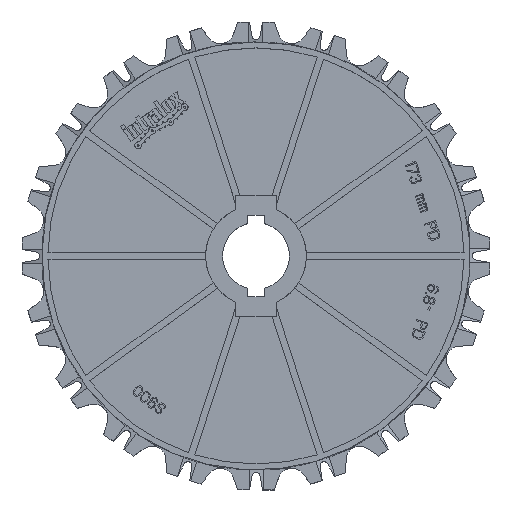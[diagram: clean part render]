
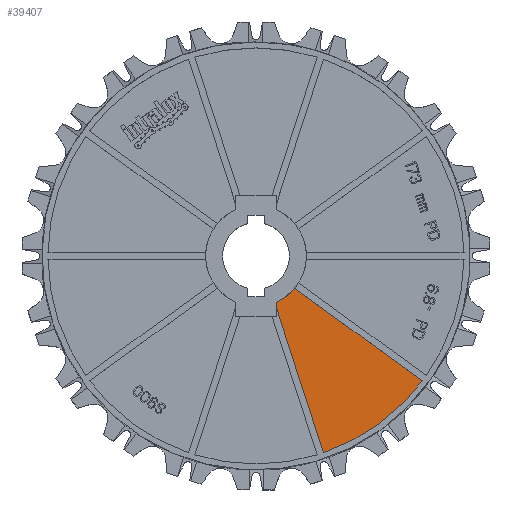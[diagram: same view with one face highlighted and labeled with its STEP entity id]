
A CAD part, top view. The second image highlights one B-rep face of the part: STEP entity #39407.
In plain terms, the highlighted planar face has unit normal (0, 0, 1).
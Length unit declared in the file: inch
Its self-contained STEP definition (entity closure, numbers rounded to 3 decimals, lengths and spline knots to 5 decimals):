
#13185=DIRECTION('',(0.,1.,0.));
#13186=VECTOR('',#13185,0.06975);
#13187=CARTESIAN_POINT('',(0.3,-0.7615,0.09));
#13188=LINE('',#13187,#13186);
#13189=CARTESIAN_POINT('',(0.,0.,0.09));
#13190=DIRECTION('',(0.,0.,1.));
#13191=DIRECTION('',(0.398,-0.917,0.));
#13192=AXIS2_PLACEMENT_3D('',#13189,#13190,#13191);
#13194=DIRECTION('',(-0.809,0.588,0.));
#13195=VECTOR('',#13194,2.36026);
#13196=CARTESIAN_POINT('',(2.48876,-1.86999,0.09));
#13197=LINE('',#13196,#13195);
#13198=CARTESIAN_POINT('',(0.,0.,0.09));
#13199=DIRECTION('',(0.,0.,1.));
#13200=DIRECTION('',(0.324,-0.946,0.));
#13201=AXIS2_PLACEMENT_3D('',#13198,#13199,#13200);
#13203=DIRECTION('',(0.309,-0.951,0.));
#13204=VECTOR('',#13203,2.29566);
#13205=CARTESIAN_POINT('',(0.3,-0.7615,0.09));
#13206=LINE('',#13205,#13204);
#20180=CARTESIAN_POINT('',(0.3,-0.69175,0.09));
#20181=VERTEX_POINT('',#20180);
#20672=CARTESIAN_POINT('',(1.0094,-2.94481,0.09));
#20673=CARTESIAN_POINT('',(2.48876,-1.86999,0.09));
#20674=VERTEX_POINT('',#20672);
#20675=VERTEX_POINT('',#20673);
#20748=CARTESIAN_POINT('',(0.3,-0.7615,0.09));
#20749=VERTEX_POINT('',#20748);
#20750=CARTESIAN_POINT('',(0.57927,-0.48267,0.09));
#20751=VERTEX_POINT('',#20750);
#39395=CARTESIAN_POINT('',(0.,0.,0.09));
#39396=DIRECTION('',(0.,0.,1.));
#39397=DIRECTION('',(-0.809,-0.588,0.));
#39398=AXIS2_PLACEMENT_3D('',#39395,#39396,#39397);
#39399=PLANE('',#39398);
#39400=ORIENTED_EDGE('',*,*,#24213,.T.);
#39401=ORIENTED_EDGE('',*,*,#24133,.T.);
#39402=ORIENTED_EDGE('',*,*,#24169,.F.);
#39403=ORIENTED_EDGE('',*,*,#24182,.F.);
#39404=ORIENTED_EDGE('',*,*,#24195,.F.);
#39405=EDGE_LOOP('',(#39400,#39401,#39402,#39403,#39404));
#39406=FACE_OUTER_BOUND('',#39405,.F.);
#39407=ADVANCED_FACE('',(#39406),#39399,.T.);
#13193=CIRCLE('',#13192,0.754);
#13202=CIRCLE('',#13201,3.113);
#24133=EDGE_CURVE('',#20181,#20751,#13193,.T.);
#24169=EDGE_CURVE('',#20675,#20751,#13197,.T.);
#24182=EDGE_CURVE('',#20674,#20675,#13202,.T.);
#24195=EDGE_CURVE('',#20749,#20674,#13206,.T.);
#24213=EDGE_CURVE('',#20749,#20181,#13188,.T.);
